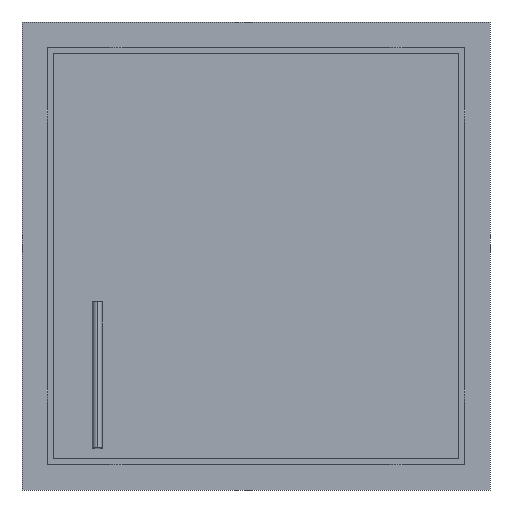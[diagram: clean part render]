
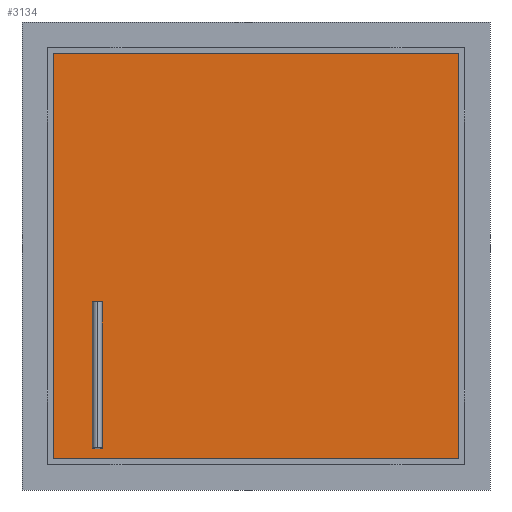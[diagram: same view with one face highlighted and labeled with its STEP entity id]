
A CAD part, front view. The second image highlights one B-rep face of the part: STEP entity #3134.
In plain terms, the highlighted planar face has unit normal (0, -1, 0).
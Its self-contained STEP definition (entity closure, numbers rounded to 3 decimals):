
#2736=DIRECTION('',(0.,0.,-1.));
#2737=VECTOR('',#2736,1048.);
#2738=CARTESIAN_POINT('',(524.,78.,515.));
#2739=LINE('',#2738,#2737);
#2744=DIRECTION('',(-1.,0.,0.));
#2745=VECTOR('',#2744,1048.);
#2746=CARTESIAN_POINT('',(524.,78.,-533.));
#2747=LINE('',#2746,#2745);
#2752=DIRECTION('',(0.,0.,1.));
#2753=VECTOR('',#2752,1048.);
#2754=CARTESIAN_POINT('',(-524.,78.,-533.));
#2755=LINE('',#2754,#2753);
#2760=DIRECTION('',(1.,0.,0.));
#2761=VECTOR('',#2760,1048.);
#2762=CARTESIAN_POINT('',(-524.,78.,515.));
#2763=LINE('',#2762,#2761);
#2931=CARTESIAN_POINT('',(524.,78.,515.));
#2932=CARTESIAN_POINT('',(524.,78.,-533.));
#2933=VERTEX_POINT('',#2931);
#2934=VERTEX_POINT('',#2932);
#2935=CARTESIAN_POINT('',(-524.,78.,-533.));
#2936=VERTEX_POINT('',#2935);
#2937=CARTESIAN_POINT('',(-524.,78.,515.));
#2938=VERTEX_POINT('',#2937);
#3120=CARTESIAN_POINT('',(0.,78.,0.));
#3121=DIRECTION('',(0.,1.,0.));
#3122=DIRECTION('',(1.,0.,0.));
#3123=AXIS2_PLACEMENT_3D('',#3120,#3121,#3122);
#3124=PLANE('',#3123);
#3125=ORIENTED_EDGE('',*,*,#3110,.T.);
#3127=ORIENTED_EDGE('',*,*,#3126,.T.);
#3129=ORIENTED_EDGE('',*,*,#3128,.T.);
#3131=ORIENTED_EDGE('',*,*,#3130,.T.);
#3132=EDGE_LOOP('',(#3125,#3127,#3129,#3131));
#3133=FACE_OUTER_BOUND('',#3132,.F.);
#3134=ADVANCED_FACE('',(#3133),#3124,.F.);
#3110=EDGE_CURVE('',#2933,#2934,#2739,.T.);
#3126=EDGE_CURVE('',#2934,#2936,#2747,.T.);
#3128=EDGE_CURVE('',#2936,#2938,#2755,.T.);
#3130=EDGE_CURVE('',#2938,#2933,#2763,.T.);
